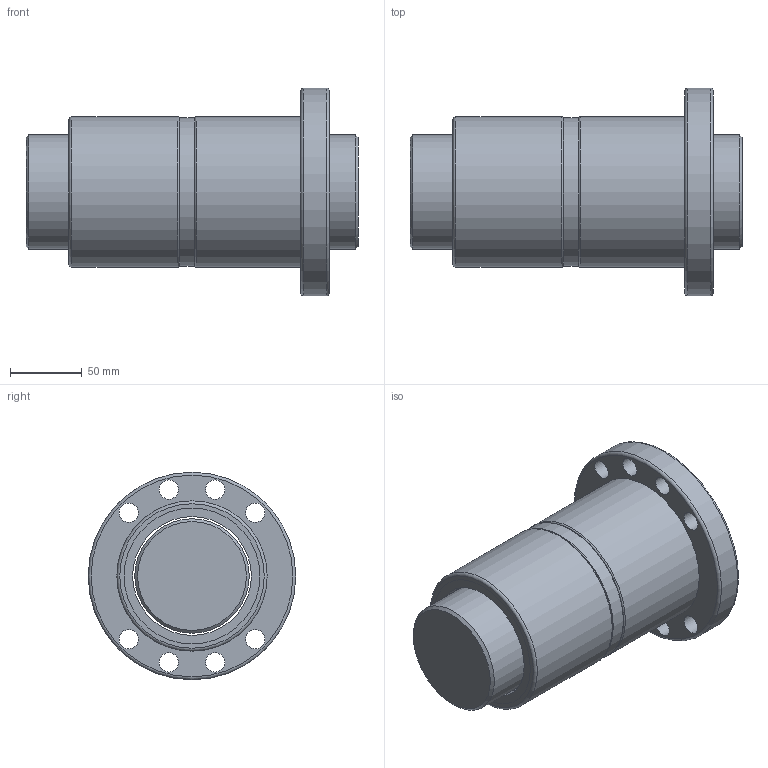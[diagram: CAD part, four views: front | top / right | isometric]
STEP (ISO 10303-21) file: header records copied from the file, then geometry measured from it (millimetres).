
FILE_DESCRIPTION(/* description */ (''),/* implementation_level */ '2;1');
FILE_NAME(/* name */ 'DFU8010',/* time_stamp */ '2007-10-26T11:01:28+08:00',/* author */ (''),/* organization */ (''),/* preprocessor_version */ 'ST-DEVELOPER v9',/* originating_system */ 'EDS PLM SOLUTIONS - UNIGRAPHICS NX 1.0',/* authorisation */ '');
FILE_SCHEMA (('CONFIG_CONTROL_DESIGN'));
Length unit declared in the file: millimetre
Products named in the file (1): FANNDA0400d8
Bounding box: 232 x 145 x 145 mm (x, y, z)
Volume: 1887518.6 mm3; surface area: 231864.7 mm2
Topology: 6 solids, 6 shells, 46 faces, 91 edges, 60 vertices
Faces by surface type: cylinder 22, plane 15, torus 7, cone 2
Full cylindrical faces by diameter (mm): 13.5 x8, 80 x1, 83 x5, 95 x4, 104 x1, 105 x2, 145 x1
Entity records: 1122 total; most frequent: DIRECTION 200, CARTESIAN_POINT 153, EDGE_LOOP 106, ORIENTED_EDGE 106, AXIS2_PLACEMENT_3D 100, FACE_BOUND 89, VERTEX_POINT 53, EDGE_CURVE 53
